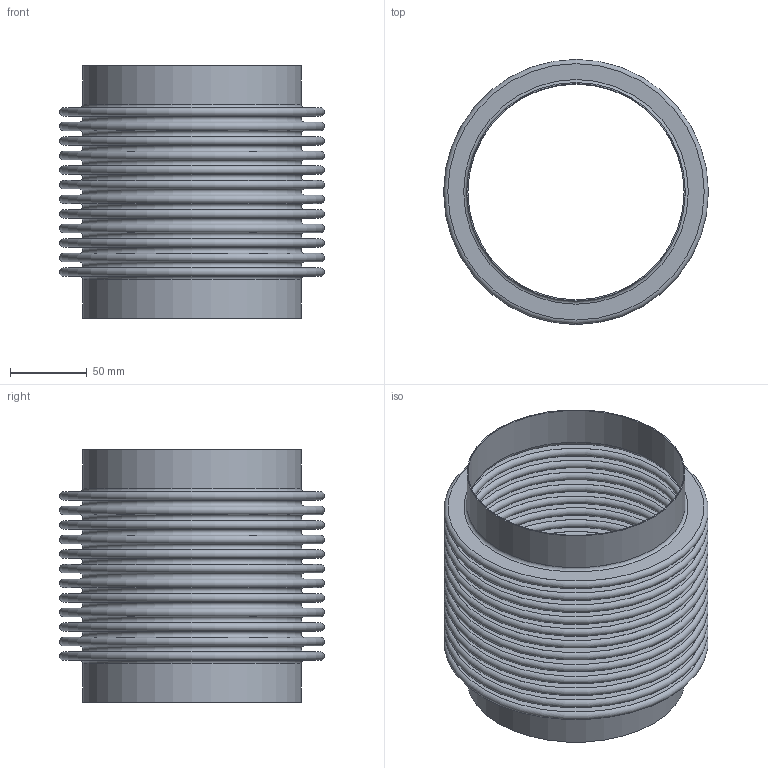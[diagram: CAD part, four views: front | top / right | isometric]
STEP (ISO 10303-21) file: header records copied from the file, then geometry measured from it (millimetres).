
FILE_DESCRIPTION(/* description */ ('STOCK BELLOWS: U.S-5-12-150L, 5.563 I.D., 6.813 O.D., 1 PLY, 22 GA (0.030 THICK), 12 CONS., 0.375 PITCH, 1.000 TANGENT. '),/* implementation_level */ '2;1');
FILE_NAME(/* name */ 'STOCK BELLOW - US-5-12-150L.stp',/* time_stamp */ '2026-07-21T13:01:58-05:00',/* author */ ('KennethB'),/* organization */ (''),/* preprocessor_version */ 'ST-DEVELOPER v20.1',/* originating_system */ 'Autodesk Inventor 2026',/* authorisation */ '');
FILE_SCHEMA (('AUTOMOTIVE_DESIGN { 1 0 10303 214 3 1 1 }'));
Length unit declared in the file: inch
Products named in the file (1): STOCK BELLOW - US-5-12-150L
Bounding box: 173.05 x 173.05 x 165.1 mm (x, y, z)
Volume: 178298.4 mm3; surface area: 470015.4 mm2
Topology: 3 solids, 3 shells, 108 faces, 162 edges, 109 vertices
Faces by surface type: plane 54, torus 50, cylinder 4
Full cylindrical faces by diameter (mm): 141.3 x2, 142.824 x2
Entity records: 2550 total; most frequent: DIRECTION 538, CARTESIAN_POINT 380, ORIENTED_EDGE 324, AXIS2_PLACEMENT_3D 267, EDGE_LOOP 162, EDGE_CURVE 162, CIRCLE 158, FACE_OUTER_BOUND 108
